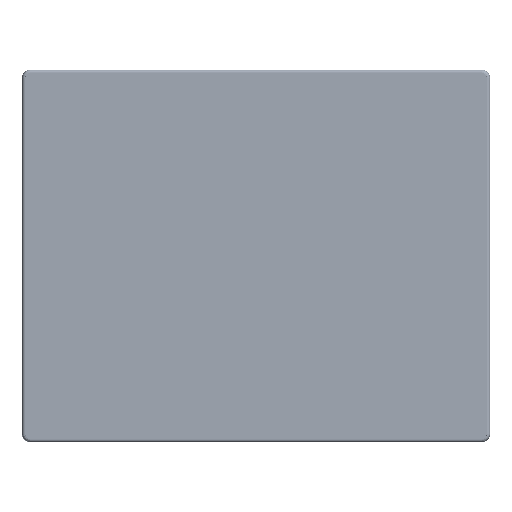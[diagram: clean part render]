
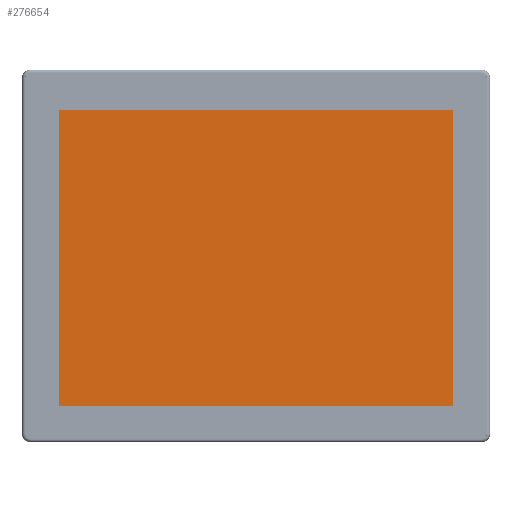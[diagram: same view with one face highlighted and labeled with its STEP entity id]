
A CAD part, front view. The second image highlights one B-rep face of the part: STEP entity #276654.
In plain terms, the highlighted planar face has unit normal (0, -1, 0).
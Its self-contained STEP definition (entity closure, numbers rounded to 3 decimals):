
#43268=LINE('',#534075,#62749);
#43271=LINE('',#534081,#62752);
#43273=LINE('',#534085,#62754);
#43274=LINE('',#534087,#62755);
#62749=VECTOR('',#397501,1000.);
#62752=VECTOR('',#397506,1000.);
#62754=VECTOR('',#397510,1000.);
#62755=VECTOR('',#397513,1000.);
#135453=ORIENTED_EDGE('',*,*,#184331,.T.);
#135454=ORIENTED_EDGE('',*,*,#184334,.T.);
#135455=ORIENTED_EDGE('',*,*,#184336,.T.);
#135456=ORIENTED_EDGE('',*,*,#184337,.T.);
#184331=EDGE_CURVE('',#211175,#211174,#43268,.T.);
#184334=EDGE_CURVE('',#211174,#211176,#43271,.T.);
#184336=EDGE_CURVE('',#211176,#211177,#43273,.T.);
#184337=EDGE_CURVE('',#211177,#211175,#43274,.T.);
#211174=VERTEX_POINT('',#534074);
#211175=VERTEX_POINT('',#534076);
#211176=VERTEX_POINT('',#534080);
#211177=VERTEX_POINT('',#534084);
#236229=EDGE_LOOP('',(#135453,#135454,#135455,#135456));
#254249=FACE_BOUND('',#236229,.T.);
#260314=PLANE('',#324193);
#276654=ADVANCED_FACE('',(#254249),#260314,.T.);
#324193=AXIS2_PLACEMENT_3D('',#534088,#397514,#397515);
#397501=DIRECTION('',(0.,0.,-1.));
#397506=DIRECTION('',(1.,0.,0.));
#397510=DIRECTION('',(0.,0.,1.));
#397513=DIRECTION('',(-1.,0.,0.));
#397514=DIRECTION('',(0.,-1.,0.));
#397515=DIRECTION('',(0.,0.,-1.));
#534074=CARTESIAN_POINT('',(-153.162,0.013,-116.561));
#534075=CARTESIAN_POINT('',(-153.162,0.013,113.563));
#534076=CARTESIAN_POINT('',(-153.162,0.013,113.563));
#534080=CARTESIAN_POINT('',(153.162,0.013,-116.561));
#534081=CARTESIAN_POINT('',(-153.162,0.013,-116.561));
#534084=CARTESIAN_POINT('',(153.162,0.013,113.563));
#534085=CARTESIAN_POINT('',(153.162,0.013,-116.561));
#534087=CARTESIAN_POINT('',(153.162,0.013,113.563));
#534088=CARTESIAN_POINT('',(0.,0.013,0.));
